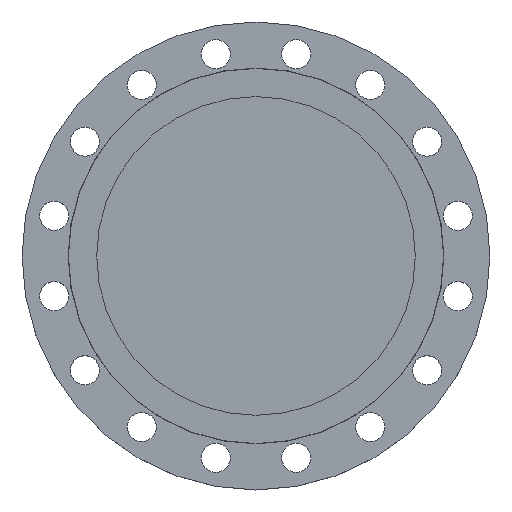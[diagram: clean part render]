
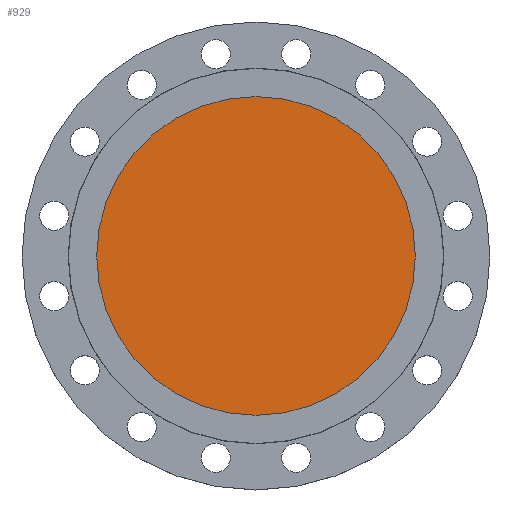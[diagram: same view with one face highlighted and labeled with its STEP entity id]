
A CAD part, top view. The second image highlights one B-rep face of the part: STEP entity #929.
In plain terms, the highlighted planar face has unit normal (0, 0, 1).
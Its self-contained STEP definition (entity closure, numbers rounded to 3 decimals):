
#113 = CARTESIAN_POINT ( 'NONE',  ( 197.5, 0., -5.5 ) ) ;
#116 = CARTESIAN_POINT ( 'NONE',  ( -197.5, 0., -5.5 ) ) ;
#245 = CIRCLE ( 'NONE', #255, 197.5 ) ;
#255 = AXIS2_PLACEMENT_3D ( 'NONE', #586, #585, #584 ) ;
#487 = AXIS2_PLACEMENT_3D ( 'NONE', #519, #518, #515 ) ;
#499 = EDGE_CURVE ( 'NONE', #1472, #1469, #1051, .T. ) ;
#515 = DIRECTION ( 'NONE',  ( 1., 0., 0. ) ) ;
#518 = DIRECTION ( 'NONE',  ( 0., 0., 1. ) ) ;
#519 = CARTESIAN_POINT ( 'NONE',  ( 0., 0., -5.5 ) ) ;
#520 = PLANE ( 'NONE',  #487 ) ;
#521 = FACE_OUTER_BOUND ( 'NONE', #1356, .T. ) ;
#584 = DIRECTION ( 'NONE',  ( -1., 0., 0. ) ) ;
#585 = DIRECTION ( 'NONE',  ( 0., 0., -1. ) ) ;
#586 = CARTESIAN_POINT ( 'NONE',  ( 0., 0., -5.5 ) ) ;
#747 = DIRECTION ( 'NONE',  ( 0., 0., -1. ) ) ;
#748 = DIRECTION ( 'NONE',  ( -1., 0., 0. ) ) ;
#752 = CARTESIAN_POINT ( 'NONE',  ( 0., 0., -5.5 ) ) ;
#822 = EDGE_CURVE ( 'NONE', #1469, #1472, #245, .T. ) ;
#929 = ADVANCED_FACE ( 'NONE', ( #521 ), #520, .T. ) ;
#1026 = AXIS2_PLACEMENT_3D ( 'NONE', #752, #747, #748 ) ;
#1051 = CIRCLE ( 'NONE', #1026, 197.5 ) ;
#1356 = EDGE_LOOP ( 'NONE', ( #1389, #1390 ) ) ;
#1389 = ORIENTED_EDGE ( 'NONE', *, *, #822, .F. ) ;
#1390 = ORIENTED_EDGE ( 'NONE', *, *, #499, .F. ) ;
#1469 = VERTEX_POINT ( 'NONE', #116 ) ;
#1472 = VERTEX_POINT ( 'NONE', #113 ) ;
